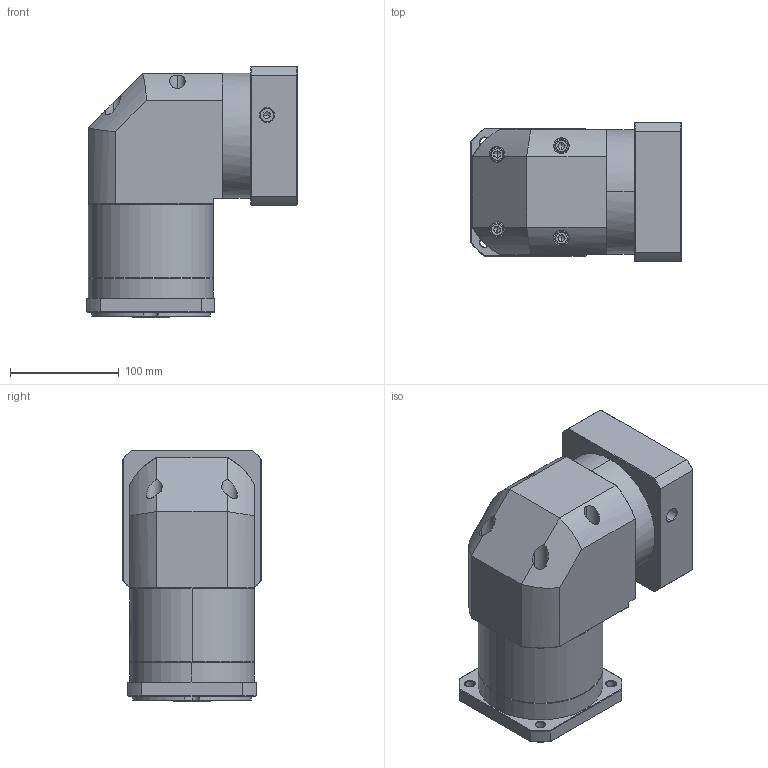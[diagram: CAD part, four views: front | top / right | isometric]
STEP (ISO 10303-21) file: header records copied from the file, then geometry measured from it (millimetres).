
FILE_DESCRIPTION (( 'STEP AP214' ), '1' );
FILE_NAME ('ZFR120A-K25-L2-P2-22-110-145-M8.step', '2023-08-27T08:15:28', ( '' ), ( '' ), 'SwSTEP 2.0', 'SolidWorks 2016', '' );
FILE_SCHEMA (( 'AUTOMOTIVE_DESIGN' ));
Length unit declared in the file: millimetre
Products named in the file (1): ZFR120A-K25-L2-P2-22-110-145-M8
Bounding box: 193.9 x 128 x 231.5 mm (x, y, z)
Volume: 3226406.6 mm3; surface area: 259721.9 mm2
Topology: 6 solids, 6 shells, 2210 faces, 5832 edges, 3727 vertices
Faces by surface type: plane 1054, bspline 416, cylinder 401, cone 331, torus 8
Entity records: 118781 total; most frequent: CARTESIAN_POINT 45113, ORIENTED_EDGE 11608, DIRECTION 8436, EDGE_CURVE 5804, VERTEX_POINT 3727, VECTOR 3106, LINE 3106, AXIS2_PLACEMENT_3D 2665
